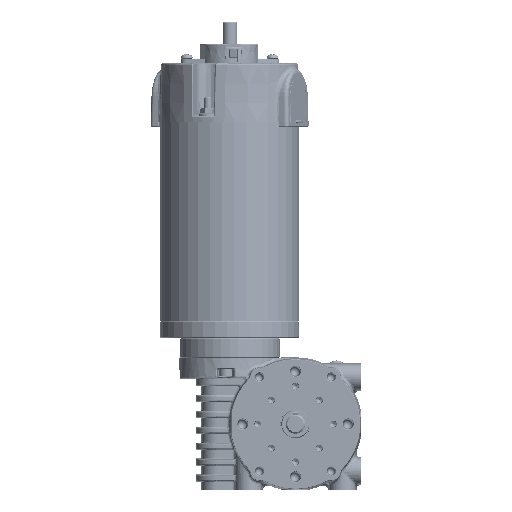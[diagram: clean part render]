
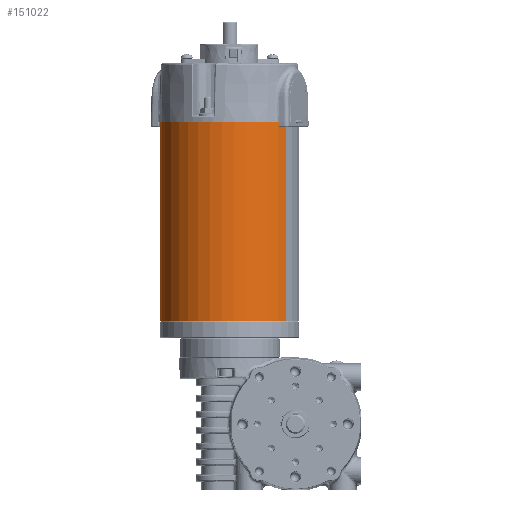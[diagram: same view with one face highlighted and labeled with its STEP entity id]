
A CAD part, left-side view. The second image highlights one B-rep face of the part: STEP entity #151022.
In plain terms, the highlighted cylindrical face has radius 37.15 mm (diameter 74.3 mm), a partial arc.
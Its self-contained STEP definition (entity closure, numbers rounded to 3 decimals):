
#4822 = VERTEX_POINT ( 'NONE', #281855 ) ;
#23944 = EDGE_CURVE ( 'NONE', #291141, #212666, #324011, .T. ) ;
#47777 = DIRECTION ( 'NONE',  ( 0.597, 0.802, 0. ) ) ;
#64499 = DIRECTION ( 'NONE',  ( 0.597, 0.802, 0. ) ) ;
#69566 = DIRECTION ( 'NONE',  ( 0., 0., 1. ) ) ;
#78554 = EDGE_LOOP ( 'NONE', ( #319006, #468636, #150151, #136229 ) ) ;
#90613 = CARTESIAN_POINT ( 'NONE',  ( 5.264, 14.716, 156.358 ) ) ;
#92407 = EDGE_CURVE ( 'NONE', #512423, #212666, #484113, .T. ) ;
#102921 = LINE ( 'NONE', #188582, #212913 ) ;
#117483 = EDGE_CURVE ( 'NONE', #4822, #291141, #220833, .T. ) ;
#123013 = CARTESIAN_POINT ( 'NONE',  ( 27.455, 44.51, 156.358 ) ) ;
#123856 = FACE_OUTER_BOUND ( 'NONE', #78554, .T. ) ;
#136155 = DIRECTION ( 'NONE',  ( 0., 0., -1. ) ) ;
#136229 = ORIENTED_EDGE ( 'NONE', *, *, #92407, .T. ) ;
#150151 = ORIENTED_EDGE ( 'NONE', *, *, #249093, .T. ) ;
#151022 = ADVANCED_FACE ( 'NONE', ( #123856 ), #370467, .T. ) ;
#188582 = CARTESIAN_POINT ( 'NONE',  ( -16.926, -15.079, 50.358 ) ) ;
#192966 = DIRECTION ( 'NONE',  ( 0., 0., -1. ) ) ;
#212666 = VERTEX_POINT ( 'NONE', #123013 ) ;
#212913 = VECTOR ( 'NONE', #510493, 1000. ) ;
#220833 = CIRCLE ( 'NONE', #486627, 37.15 ) ;
#249093 = EDGE_CURVE ( 'NONE', #4822, #512423, #102921, .T. ) ;
#267353 = AXIS2_PLACEMENT_3D ( 'NONE', #373066, #332899, #295170 ) ;
#281855 = CARTESIAN_POINT ( 'NONE',  ( -16.926, -15.079, 50.358 ) ) ;
#291141 = VERTEX_POINT ( 'NONE', #309523 ) ;
#295170 = DIRECTION ( 'NONE',  ( -0.597, -0.802, 0. ) ) ;
#309523 = CARTESIAN_POINT ( 'NONE',  ( 27.455, 44.51, 50.358 ) ) ;
#319006 = ORIENTED_EDGE ( 'NONE', *, *, #23944, .F. ) ;
#324011 = LINE ( 'NONE', #396555, #502134 ) ;
#324984 = CARTESIAN_POINT ( 'NONE',  ( -16.926, -15.079, 156.358 ) ) ;
#332899 = DIRECTION ( 'NONE',  ( 0., 0., 1. ) ) ;
#370467 = CYLINDRICAL_SURFACE ( 'NONE', #267353, 37.15 ) ;
#372709 = AXIS2_PLACEMENT_3D ( 'NONE', #90613, #136155, #47777 ) ;
#373066 = CARTESIAN_POINT ( 'NONE',  ( 5.264, 14.716, 50.358 ) ) ;
#396555 = CARTESIAN_POINT ( 'NONE',  ( 27.455, 44.51, 50.358 ) ) ;
#431762 = CARTESIAN_POINT ( 'NONE',  ( 5.264, 14.716, 50.358 ) ) ;
#468636 = ORIENTED_EDGE ( 'NONE', *, *, #117483, .F. ) ;
#484113 = CIRCLE ( 'NONE', #372709, 37.15 ) ;
#486627 = AXIS2_PLACEMENT_3D ( 'NONE', #431762, #192966, #64499 ) ;
#502134 = VECTOR ( 'NONE', #69566, 1000. ) ;
#510493 = DIRECTION ( 'NONE',  ( 0., 0., 1. ) ) ;
#512423 = VERTEX_POINT ( 'NONE', #324984 ) ;
